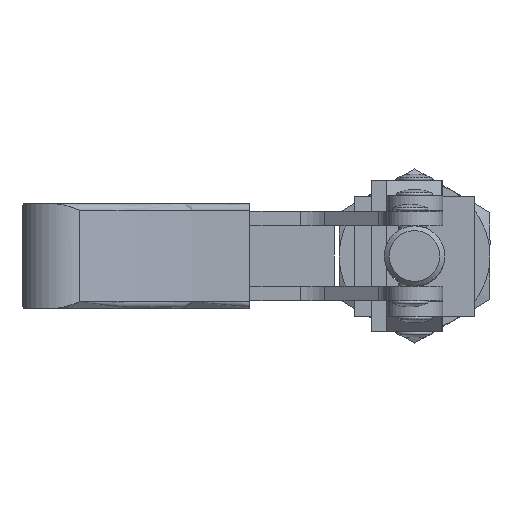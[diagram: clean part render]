
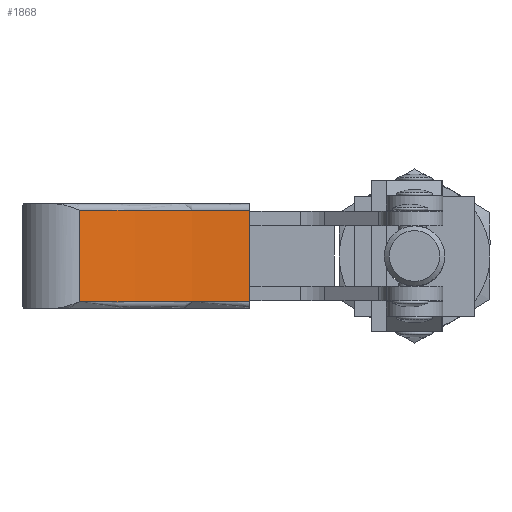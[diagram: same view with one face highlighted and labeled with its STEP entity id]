
A CAD part, left-side view. The second image highlights one B-rep face of the part: STEP entity #1868.
In plain terms, the highlighted cylindrical face has radius 37.187 mm (diameter 74.374 mm), a partial arc.
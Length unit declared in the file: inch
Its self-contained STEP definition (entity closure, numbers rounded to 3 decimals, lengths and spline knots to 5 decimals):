
#1561=CARTESIAN_POINT('',(9.16076,3.46869,0.11169));
#1562=VERTEX_POINT('',#1561);
#1576=CARTESIAN_POINT('',(9.22164,3.05089,0.11169));
#1577=VERTEX_POINT('',#1576);
#1578=CARTESIAN_POINT('',(7.75759,3.05089,0.11169));
#1579=DIRECTION('',(0.,0.,-1.0));
#1580=DIRECTION('',(0.99,0.144,0.));
#1581=AXIS2_PLACEMENT_3D('',#1578,#1579,#1580);
#1582=CIRCLE('',#1581,1.46405);
#1583=EDGE_CURVE('',#1562,#1577,#1582,.T.);
#1670=CARTESIAN_POINT('',(9.22164,3.05089,-0.11169));
#1671=VERTEX_POINT('',#1670);
#1679=CARTESIAN_POINT('',(9.16076,3.46869,-0.11169));
#1680=VERTEX_POINT('',#1679);
#1681=CARTESIAN_POINT('',(7.75759,3.05089,-0.11169));
#1682=DIRECTION('',(0.,0.,1.0));
#1683=DIRECTION('',(0.99,0.144,0.));
#1684=AXIS2_PLACEMENT_3D('',#1681,#1682,#1683);
#1685=CIRCLE('',#1684,1.46405);
#1686=EDGE_CURVE('',#1671,#1680,#1685,.T.);
#1743=CARTESIAN_POINT('',(9.16076,3.46869,0.11169));
#1744=DIRECTION('',(0.0,0.0,-1.0));
#1745=VECTOR('',#1744,0.22339);
#1746=LINE('',#1743,#1745);
#1747=EDGE_CURVE('',#1562,#1680,#1746,.T.);
#1852=CARTESIAN_POINT('',(7.75759,3.05089,0.0));
#1853=DIRECTION('',(0.0,0.,1.0));
#1854=DIRECTION('',(-1.0,0.0,0.0));
#1855=AXIS2_PLACEMENT_3D('',#1852,#1853,#1854);
#1856=CYLINDRICAL_SURFACE('',#1855,1.46405);
#1857=ORIENTED_EDGE('',*,*,#1686,.F.);
#1858=CARTESIAN_POINT('',(9.22164,3.05089,0.11169));
#1859=DIRECTION('',(0.0,0.0,-1.0));
#1860=VECTOR('',#1859,0.22339);
#1861=LINE('',#1858,#1860);
#1862=EDGE_CURVE('',#1577,#1671,#1861,.T.);
#1863=ORIENTED_EDGE('',*,*,#1862,.F.);
#1864=ORIENTED_EDGE('',*,*,#1583,.F.);
#1865=ORIENTED_EDGE('',*,*,#1747,.T.);
#1866=EDGE_LOOP('',(#1857,#1863,#1864,#1865));
#1867=FACE_OUTER_BOUND('',#1866,.T.);
#1868=ADVANCED_FACE('',(#1867),#1856,.F.);
